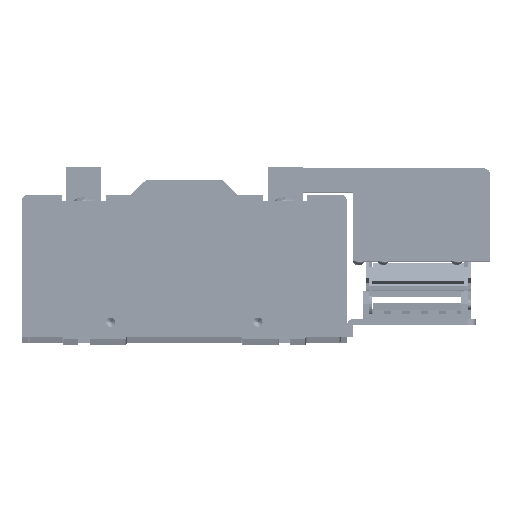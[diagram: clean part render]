
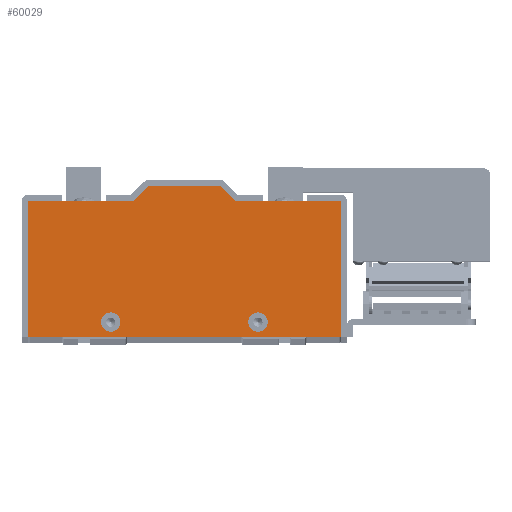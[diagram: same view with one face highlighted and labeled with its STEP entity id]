
A CAD part, top view. The second image highlights one B-rep face of the part: STEP entity #60029.
In plain terms, the highlighted planar face has unit normal (0, 0, 1).
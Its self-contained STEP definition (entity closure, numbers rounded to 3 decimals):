
#6687 = VERTEX_POINT ( 'NONE', #68347 ) ;
#7862 = CARTESIAN_POINT ( 'NONE',  ( 34.75, -29., 9.525 ) ) ;
#8788 = CARTESIAN_POINT ( 'NONE',  ( -34.75, -29., 9.525 ) ) ;
#12383 = DIRECTION ( 'NONE',  ( 1., 0., 0. ) ) ;
#12385 = DIRECTION ( 'NONE',  ( 0., 0., 1. ) ) ;
#12386 = CARTESIAN_POINT ( 'NONE',  ( -40., -29., 9.525 ) ) ;
#12387 = AXIS2_PLACEMENT_3D ( 'NONE', #12386, #12385, #12383 ) ;
#12389 = CIRCLE ( 'NONE', #12387, 5.25 ) ;
#12433 = CARTESIAN_POINT ( 'NONE',  ( -45.25, -29., 9.525 ) ) ;
#12995 = DIRECTION ( 'NONE',  ( 1., 0., 0. ) ) ;
#12999 = DIRECTION ( 'NONE',  ( 0., 0., 1. ) ) ;
#13287 = CARTESIAN_POINT ( 'NONE',  ( 45.25, -29., 9.525 ) ) ;
#13491 = CARTESIAN_POINT ( 'NONE',  ( 40., -29., 9.525 ) ) ;
#13497 = AXIS2_PLACEMENT_3D ( 'NONE', #13491, #12999, #12995 ) ;
#13499 = CIRCLE ( 'NONE', #13497, 5.25 ) ;
#19427 = CARTESIAN_POINT ( 'NONE',  ( -19.5, 45., 9.525 ) ) ;
#19474 = LINE ( 'NONE', #19427, #19487 ) ;
#19485 = DIRECTION ( 'NONE',  ( -1., 0., 0. ) ) ;
#19487 = VECTOR ( 'NONE', #19485, 1000. ) ;
#19747 = DIRECTION ( 'NONE',  ( -1., 0., 0. ) ) ;
#19748 = VECTOR ( 'NONE', #19747, 1000. ) ;
#19749 = CARTESIAN_POINT ( 'NONE',  ( -85., 37., 9.525 ) ) ;
#19771 = LINE ( 'NONE', #19749, #19748 ) ;
#30916 = VERTEX_POINT ( 'NONE', #7862 ) ;
#31001 = VERTEX_POINT ( 'NONE', #8788 ) ;
#31283 = VERTEX_POINT ( 'NONE', #12433 ) ;
#31313 = EDGE_CURVE ( 'NONE', #31283, #31001, #12389, .T. ) ;
#31366 = EDGE_CURVE ( 'NONE', #30916, #31369, #13499, .T. ) ;
#31369 = VERTEX_POINT ( 'NONE', #13287 ) ;
#37556 = CARTESIAN_POINT ( 'NONE',  ( 85., 37., 9.525 ) ) ;
#55737 = EDGE_CURVE ( 'NONE', #124186, #116707, #92832, .T. ) ;
#55977 = VERTEX_POINT ( 'NONE', #95594 ) ;
#57399 = ORIENTED_EDGE ( 'NONE', *, *, #55737, .T. ) ;
#59727 = EDGE_CURVE ( 'NONE', #116707, #120072, #19474, .T. ) ;
#59818 = EDGE_CURVE ( 'NONE', #55977, #136578, #19771, .T. ) ;
#59839 = EDGE_LOOP ( 'NONE', ( #60002, #123708 ) ) ;
#60002 = ORIENTED_EDGE ( 'NONE', *, *, #123848, .F. ) ;
#60029 = ADVANCED_FACE ( 'NONE', ( #130159, #130157, #130156 ), #130177, .T. ) ;
#62277 = VERTEX_POINT ( 'NONE', #37556 ) ;
#68347 = CARTESIAN_POINT ( 'NONE',  ( -85., -37., 9.525 ) ) ;
#79201 = ORIENTED_EDGE ( 'NONE', *, *, #59818, .T. ) ;
#80380 = ORIENTED_EDGE ( 'NONE', *, *, #117013, .T. ) ;
#80453 = ORIENTED_EDGE ( 'NONE', *, *, #59727, .T. ) ;
#92791 = DIRECTION ( 'NONE',  ( -0.707, 0.707, 0. ) ) ;
#92793 = VECTOR ( 'NONE', #92791, 1000. ) ;
#92831 = CARTESIAN_POINT ( 'NONE',  ( 19.5, 45., 9.525 ) ) ;
#92832 = LINE ( 'NONE', #92831, #92793 ) ;
#95594 = CARTESIAN_POINT ( 'NONE',  ( -27.5, 37., 9.525 ) ) ;
#113080 = EDGE_CURVE ( 'NONE', #115209, #62277, #132940, .T. ) ;
#114188 = EDGE_CURVE ( 'NONE', #6687, #115209, #134669, .T. ) ;
#115209 = VERTEX_POINT ( 'NONE', #134747 ) ;
#116707 = VERTEX_POINT ( 'NONE', #135374 ) ;
#117013 = EDGE_CURVE ( 'NONE', #120072, #55977, #135423, .T. ) ;
#118505 = ORIENTED_EDGE ( 'NONE', *, *, #119602, .T. ) ;
#119055 = ORIENTED_EDGE ( 'NONE', *, *, #113080, .T. ) ;
#119565 = ORIENTED_EDGE ( 'NONE', *, *, #114188, .T. ) ;
#119602 = EDGE_CURVE ( 'NONE', #62277, #124186, #136673, .T. ) ;
#120072 = VERTEX_POINT ( 'NONE', #137221 ) ;
#121499 = ORIENTED_EDGE ( 'NONE', *, *, #136576, .T. ) ;
#121512 = EDGE_LOOP ( 'NONE', ( #121499, #119565, #119055, #118505, #57399, #80453, #80380, #79201 ) ) ;
#122004 = ORIENTED_EDGE ( 'NONE', *, *, #31366, .F. ) ;
#122218 = ORIENTED_EDGE ( 'NONE', *, *, #122371, .F. ) ;
#122371 = EDGE_CURVE ( 'NONE', #31369, #30916, #137248, .T. ) ;
#123708 = ORIENTED_EDGE ( 'NONE', *, *, #31313, .F. ) ;
#123773 = EDGE_LOOP ( 'NONE', ( #122218, #122004 ) ) ;
#123848 = EDGE_CURVE ( 'NONE', #31001, #31283, #137325, .T. ) ;
#124186 = VERTEX_POINT ( 'NONE', #137398 ) ;
#130156 = FACE_OUTER_BOUND ( 'NONE', #121512, .T. ) ;
#130157 = FACE_BOUND ( 'NONE', #123773, .T. ) ;
#130159 = FACE_BOUND ( 'NONE', #59839, .T. ) ;
#130172 = DIRECTION ( 'NONE',  ( 1., 0., 0. ) ) ;
#130174 = DIRECTION ( 'NONE',  ( 0., 0., 1. ) ) ;
#130175 = CARTESIAN_POINT ( 'NONE',  ( -85., 37., 9.525 ) ) ;
#130176 = AXIS2_PLACEMENT_3D ( 'NONE', #130175, #130174, #130172 ) ;
#130177 = PLANE ( 'NONE',  #130176 ) ;
#132934 = DIRECTION ( 'NONE',  ( 0., 1., 0. ) ) ;
#132936 = VECTOR ( 'NONE', #132934, 1000. ) ;
#132938 = CARTESIAN_POINT ( 'NONE',  ( 85., 37., 9.525 ) ) ;
#132940 = LINE ( 'NONE', #132938, #132936 ) ;
#134149 = CARTESIAN_POINT ( 'NONE',  ( 27.5, 37., 9.525 ) ) ;
#134637 = VECTOR ( 'NONE', #135065, 1000. ) ;
#134666 = DIRECTION ( 'NONE',  ( 1., 0., 0. ) ) ;
#134667 = VECTOR ( 'NONE', #134666, 1000. ) ;
#134668 = CARTESIAN_POINT ( 'NONE',  ( -85., -37., 9.525 ) ) ;
#134669 = LINE ( 'NONE', #134668, #134667 ) ;
#134747 = CARTESIAN_POINT ( 'NONE',  ( 85., -37., 9.525 ) ) ;
#135065 = DIRECTION ( 'NONE',  ( -1., 0., 0. ) ) ;
#135374 = CARTESIAN_POINT ( 'NONE',  ( 19.5, 45., 9.525 ) ) ;
#135418 = DIRECTION ( 'NONE',  ( -0.707, -0.707, 0. ) ) ;
#135420 = VECTOR ( 'NONE', #135418, 1000. ) ;
#135422 = CARTESIAN_POINT ( 'NONE',  ( -27.5, 37., 9.525 ) ) ;
#135423 = LINE ( 'NONE', #135422, #135420 ) ;
#136576 = EDGE_CURVE ( 'NONE', #136578, #6687, #146509, .T. ) ;
#136578 = VERTEX_POINT ( 'NONE', #146505 ) ;
#136673 = LINE ( 'NONE', #134149, #134637 ) ;
#137221 = CARTESIAN_POINT ( 'NONE',  ( -19.5, 45., 9.525 ) ) ;
#137244 = DIRECTION ( 'NONE',  ( 1., 0., 0. ) ) ;
#137245 = DIRECTION ( 'NONE',  ( 0., 0., 1. ) ) ;
#137246 = CARTESIAN_POINT ( 'NONE',  ( 40., -29., 9.525 ) ) ;
#137247 = AXIS2_PLACEMENT_3D ( 'NONE', #137246, #137245, #137244 ) ;
#137248 = CIRCLE ( 'NONE', #137247, 5.25 ) ;
#137321 = DIRECTION ( 'NONE',  ( 1., 0., 0. ) ) ;
#137322 = DIRECTION ( 'NONE',  ( 0., 0., 1. ) ) ;
#137323 = CARTESIAN_POINT ( 'NONE',  ( -40., -29., 9.525 ) ) ;
#137324 = AXIS2_PLACEMENT_3D ( 'NONE', #137323, #137322, #137321 ) ;
#137325 = CIRCLE ( 'NONE', #137324, 5.25 ) ;
#137398 = CARTESIAN_POINT ( 'NONE',  ( 27.5, 37., 9.525 ) ) ;
#146505 = CARTESIAN_POINT ( 'NONE',  ( -85., 37., 9.525 ) ) ;
#146506 = DIRECTION ( 'NONE',  ( 0., -1., 0. ) ) ;
#146507 = VECTOR ( 'NONE', #146506, 1000. ) ;
#146508 = CARTESIAN_POINT ( 'NONE',  ( -85., 37., 9.525 ) ) ;
#146509 = LINE ( 'NONE', #146508, #146507 ) ;
